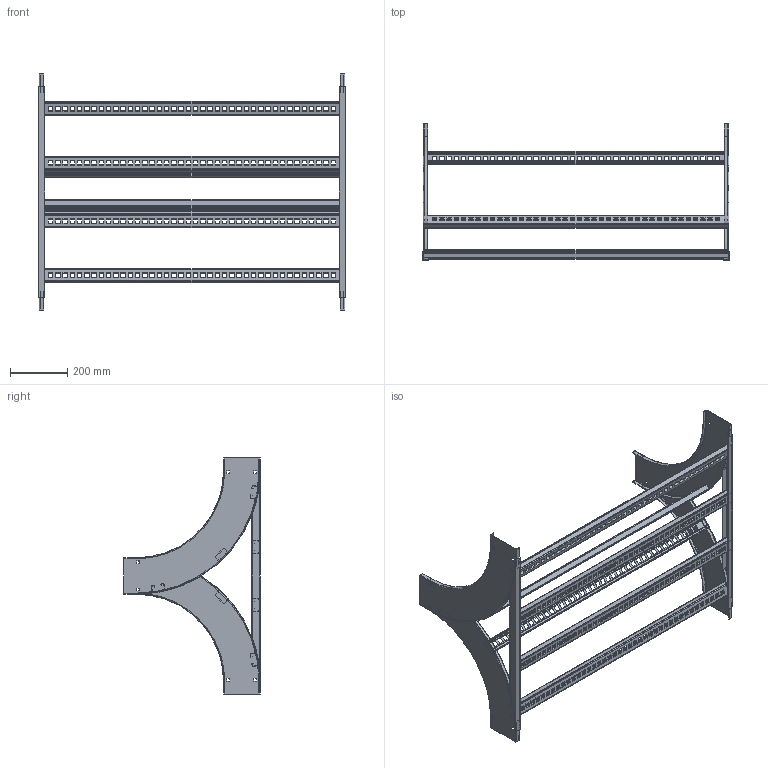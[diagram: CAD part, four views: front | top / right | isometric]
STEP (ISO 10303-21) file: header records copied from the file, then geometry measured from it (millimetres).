
FILE_DESCRIPTION((''),'2;1');
FILE_NAME('AUF542LVTU12_ASM','2010-01-27T',('erouzier'),(''),'PRO/ENGINEER BY PARAMETRIC TECHNOLOGY CORPORATION, 2008510','PRO/ENGINEER BY PARAMETRIC TECHNOLOGY CORPORATION, 2008510','');
FILE_SCHEMA(('CONFIG_CONTROL_DESIGN'));
Length unit declared in the file: inch
Products named in the file (7): CDS001417_5_90_12; CDS001417_5_90_12_AF2; CDS001417_5_90_12_AF3; CDS002159L42-P; CDS000495_GEN_AF0; CDS000495_GEN_AF1; AUF542LVTU12_ASM
Assembly tree (13 placements, depth 2):
  AUF542LVTU12_ASM
    CDS001417_5_90_12  x2
    CDS001417_5_90_12_AF2
    CDS001417_5_90_12_AF3
    CDS002159L42-P  x7
    CDS000495_GEN_AF0
    CDS000495_GEN_AF1
Bounding box: 1073.15 x 477.32 x 826.57 mm (x, y, z)
Volume: 1856163.6 mm3; surface area: 2514861.5 mm2
Topology: 13 solids, 13 shells, 2672 faces, 7830 edges, 5184 vertices
Faces by surface type: plane 1409, cylinder 1247, torus 16
Entity records: 16979 total; most frequent: CARTESIAN_POINT 3017, DIRECTION 2926, ORIENTED_EDGE 2860, EDGE_CURVE 1430, VECTOR 978, LINE 978, AXIS2_PLACEMENT_3D 974, VERTEX_POINT 928
